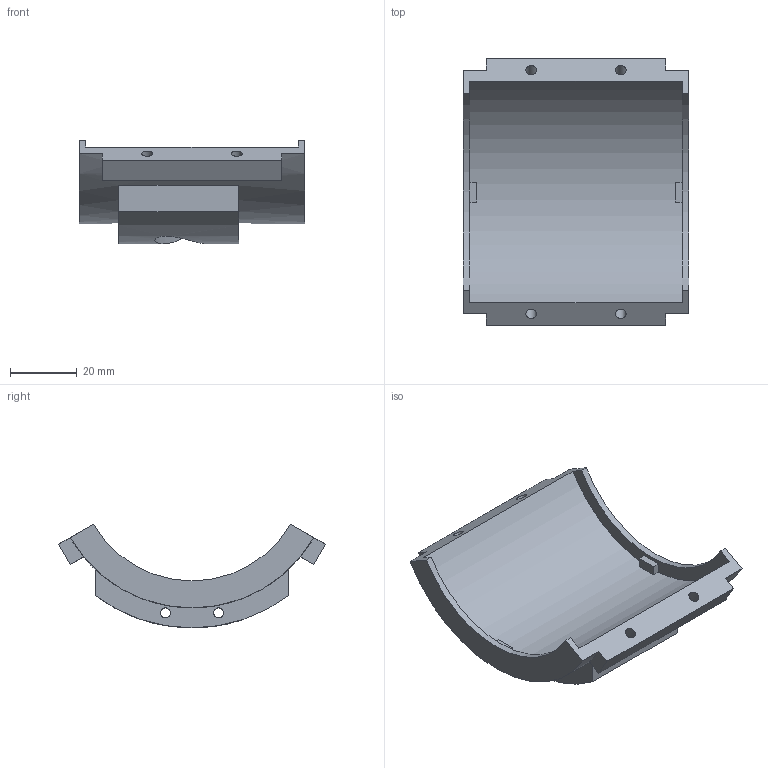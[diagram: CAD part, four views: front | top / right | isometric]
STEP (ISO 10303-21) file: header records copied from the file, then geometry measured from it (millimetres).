
FILE_DESCRIPTION(('Open CASCADE Model'),'2;1');
FILE_NAME('Open CASCADE Shape Model','2026-10-31T23:30:33',('Author'),( 'Open CASCADE'),'Open CASCADE STEP processor 7.9','Open CASCADE 7.9' ,'Unknown');
FILE_SCHEMA(('AUTOMOTIVE_DESIGN { 1 0 10303 214 1 1 1 1 }'));
Length unit declared in the file: millimetre
Products named in the file (1): Open CASCADE STEP translator 7.9 18
Bounding box: 67.8 x 80.02 x 31.15 mm (x, y, z)
Volume: 36049.5 mm3; surface area: 17855 mm2
Topology: 1 solids, 1 shells, 62 faces, 184 edges, 123 vertices
Faces by surface type: plane 43, cylinder 15, bspline 4
Full cylindrical faces by diameter (mm): 3 x4, 3.2 x4
Entity records: 11250 total; most frequent: CARTESIAN_POINT 7702, DIRECTION 614, LINE 380, VECTOR 380, ORIENTED_EDGE 368, PCURVE 368, DEFINITIONAL_REPRESENTATION 368, EDGE_CURVE 184
